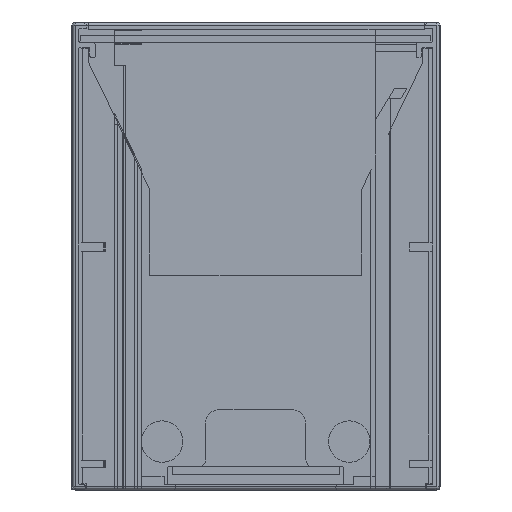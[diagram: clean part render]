
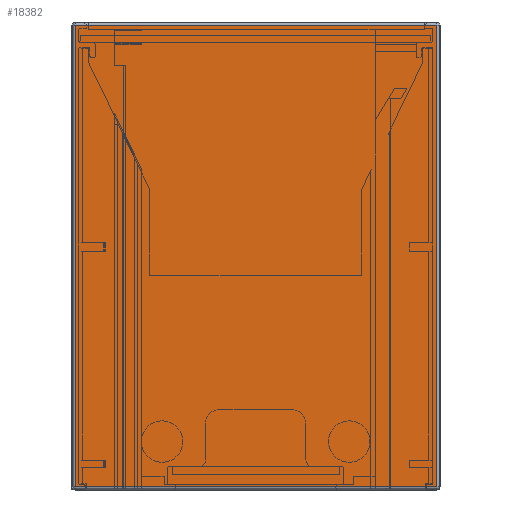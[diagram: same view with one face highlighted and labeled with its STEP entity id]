
A CAD part, front view. The second image highlights one B-rep face of the part: STEP entity #18382.
In plain terms, the highlighted planar face has unit normal (0, -1, 0) as drawn and (0, 0, 1) by its records, which use the part's own axes.
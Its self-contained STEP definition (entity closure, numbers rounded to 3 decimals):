
#17103=DIRECTION('',(0.,-1.,0.));
#17104=VECTOR('',#17103,69.);
#17105=CARTESIAN_POINT('',(27.,23.45,2.15));
#17106=LINE('',#17105,#17104);
#17142=DIRECTION('',(1.,0.,0.));
#17143=VECTOR('',#17142,54.);
#17144=CARTESIAN_POINT('',(-27.,23.45,2.15));
#17145=LINE('',#17144,#17143);
#17161=DIRECTION('',(0.,1.,0.));
#17162=VECTOR('',#17161,69.);
#17163=CARTESIAN_POINT('',(-27.,-45.55,2.15));
#17164=LINE('',#17163,#17162);
#17169=DIRECTION('',(-1.,0.,0.));
#17170=VECTOR('',#17169,54.);
#17171=CARTESIAN_POINT('',(27.,-45.55,2.15));
#17172=LINE('',#17171,#17170);
#17646=CARTESIAN_POINT('',(-27.,23.45,2.15));
#17647=CARTESIAN_POINT('',(27.,23.45,2.15));
#17648=VERTEX_POINT('',#17646);
#17649=VERTEX_POINT('',#17647);
#17662=CARTESIAN_POINT('',(27.,-45.55,2.15));
#17663=VERTEX_POINT('',#17662);
#17705=CARTESIAN_POINT('',(-27.,-45.55,2.15));
#17706=VERTEX_POINT('',#17705);
#18370=CARTESIAN_POINT('',(0.,0.,2.15));
#18371=DIRECTION('',(0.,0.,-1.));
#18372=DIRECTION('',(-1.,0.,0.));
#18373=AXIS2_PLACEMENT_3D('',#18370,#18371,#18372);
#18374=PLANE('',#18373);
#18375=ORIENTED_EDGE('',*,*,#18361,.T.);
#18376=ORIENTED_EDGE('',*,*,#18337,.T.);
#18377=ORIENTED_EDGE('',*,*,#18262,.T.);
#18379=ORIENTED_EDGE('',*,*,#18378,.T.);
#18380=EDGE_LOOP('',(#18375,#18376,#18377,#18379));
#18381=FACE_OUTER_BOUND('',#18380,.F.);
#18382=ADVANCED_FACE('',(#18381),#18374,.F.);
#18262=EDGE_CURVE('',#17649,#17663,#17106,.T.);
#18337=EDGE_CURVE('',#17648,#17649,#17145,.T.);
#18361=EDGE_CURVE('',#17706,#17648,#17164,.T.);
#18378=EDGE_CURVE('',#17663,#17706,#17172,.T.);
